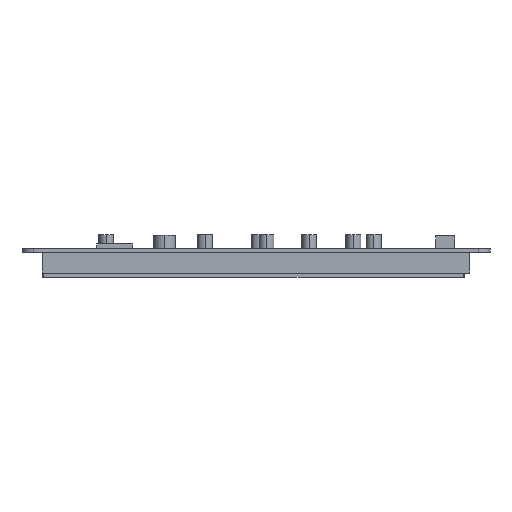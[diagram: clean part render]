
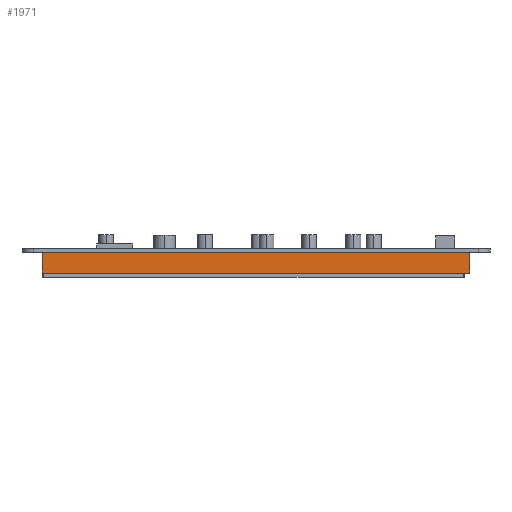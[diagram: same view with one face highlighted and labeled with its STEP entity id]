
A CAD part, left-side view. The second image highlights one B-rep face of the part: STEP entity #1971.
In plain terms, the highlighted planar face has unit normal (-1, 0, 0).
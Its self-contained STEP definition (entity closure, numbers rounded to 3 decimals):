
#495=DIRECTION('',(0.,1.,0.));
#496=VECTOR('',#495,176.8);
#497=CARTESIAN_POINT('',(-113.75,-91.55,-1.6));
#498=LINE('',#497,#496);
#587=DIRECTION('',(0.,0.,-1.));
#588=VECTOR('',#587,8.5);
#589=CARTESIAN_POINT('',(-113.75,85.25,-1.6));
#590=LINE('',#589,#588);
#591=DIRECTION('',(0.,0.,-1.));
#592=VECTOR('',#591,8.5);
#593=CARTESIAN_POINT('',(-113.75,-91.55,-1.6));
#594=LINE('',#593,#592);
#607=DIRECTION('',(0.,1.,0.));
#608=VECTOR('',#607,176.8);
#609=CARTESIAN_POINT('',(-113.75,-91.55,-10.1));
#610=LINE('',#609,#608);
#1169=CARTESIAN_POINT('',(-113.75,85.25,-10.1));
#1171=VERTEX_POINT('',#1169);
#1175=CARTESIAN_POINT('',(-113.75,-91.55,-10.1));
#1176=VERTEX_POINT('',#1175);
#1177=CARTESIAN_POINT('',(-113.75,85.25,-1.6));
#1179=VERTEX_POINT('',#1177);
#1186=CARTESIAN_POINT('',(-113.75,-91.55,-1.6));
#1188=VERTEX_POINT('',#1186);
#1958=CARTESIAN_POINT('',(-113.75,-91.55,-1.6));
#1959=DIRECTION('',(-1.,0.,0.));
#1960=DIRECTION('',(0.,1.,0.));
#1961=AXIS2_PLACEMENT_3D('',#1958,#1959,#1960);
#1962=PLANE('',#1961);
#1963=ORIENTED_EDGE('',*,*,#1582,.F.);
#1965=ORIENTED_EDGE('',*,*,#1964,.T.);
#1967=ORIENTED_EDGE('',*,*,#1966,.T.);
#1968=ORIENTED_EDGE('',*,*,#1949,.F.);
#1969=EDGE_LOOP('',(#1963,#1965,#1967,#1968));
#1970=FACE_OUTER_BOUND('',#1969,.F.);
#1582=EDGE_CURVE('',#1188,#1179,#498,.T.);
#1949=EDGE_CURVE('',#1179,#1171,#590,.T.);
#1964=EDGE_CURVE('',#1188,#1176,#594,.T.);
#1966=EDGE_CURVE('',#1176,#1171,#610,.T.);
#1971=ADVANCED_FACE('',(#1970),#1962,.T.);
